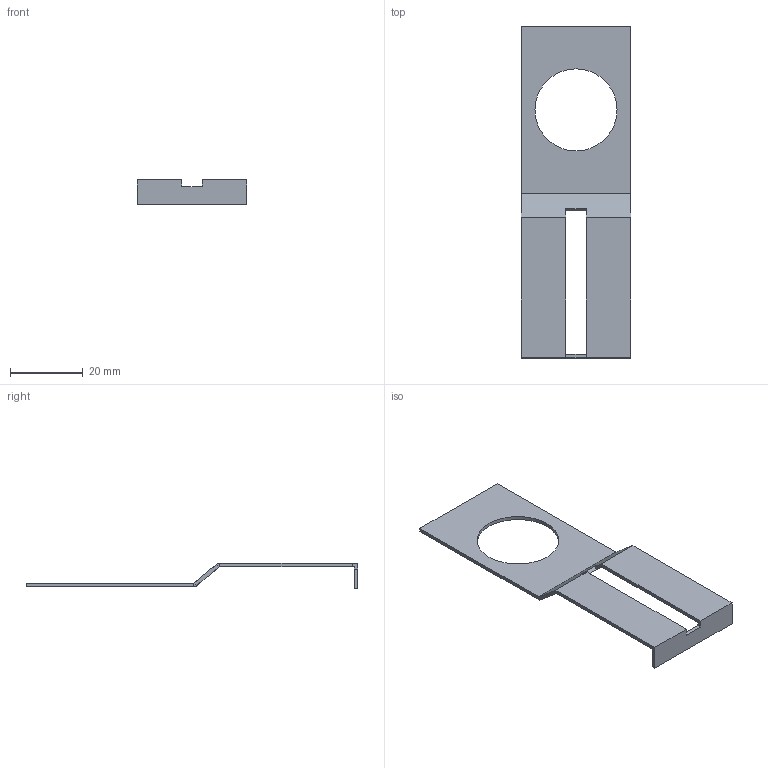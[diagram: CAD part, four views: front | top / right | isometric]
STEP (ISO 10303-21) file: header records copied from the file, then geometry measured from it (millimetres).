
FILE_DESCRIPTION(('Open CASCADE Model'),'2;1');
FILE_NAME('Open CASCADE Shape Model','2026-02-10T10:58:42',('Author'),( 'Open CASCADE'),'Open CASCADE STEP processor 7.8','Open CASCADE 7.8' ,'Unknown');
FILE_SCHEMA(('AUTOMOTIVE_DESIGN { 1 0 10303 214 1 1 1 1 }'));
Length unit declared in the file: millimetre
Products named in the file (2): Compound1; Solid1
Assembly tree (1 placements, depth 2):
  Compound1
    Solid1
Bounding box: 30 x 91 x 7 mm (x, y, z)
Volume: 2339.5 mm3; surface area: 5103.3 mm2
Topology: 1 solids, 1 shells, 40 faces, 120 edges, 80 vertices
Faces by surface type: plane 38, cylinder 2
Entity records: 1364 total; most frequent: CARTESIAN_POINT 242, ORIENTED_EDGE 240, DIRECTION 208, EDGE_CURVE 120, LINE 116, VECTOR 116, VERTEX_POINT 80, AXIS2_PLACEMENT_3D 46
